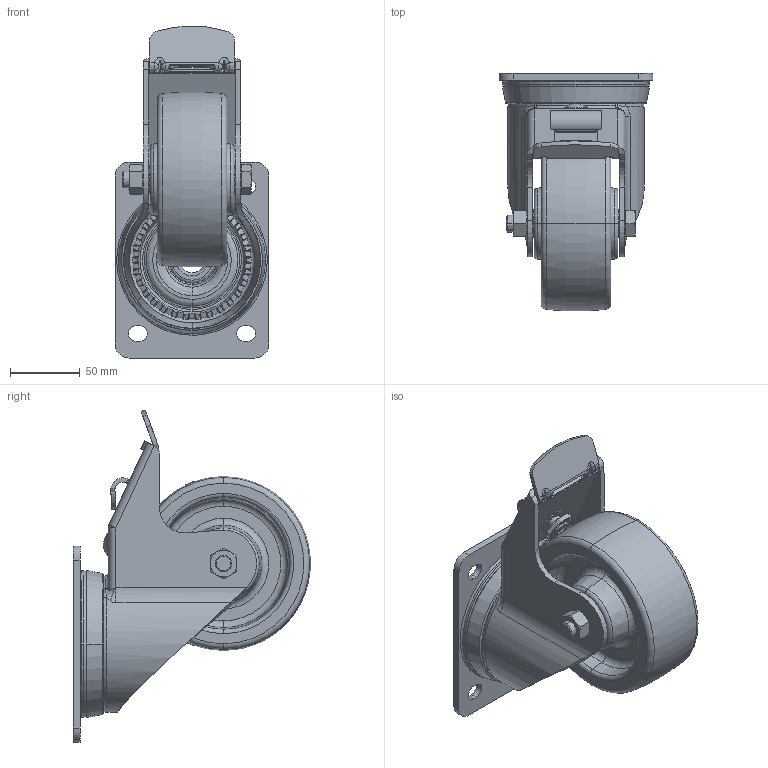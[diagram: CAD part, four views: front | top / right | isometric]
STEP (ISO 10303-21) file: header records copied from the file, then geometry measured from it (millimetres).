
FILE_DESCRIPTION (( 'STEP AP214' ), '1' );
FILE_NAME ('LKX-SPO_127G-FI_602458-214.step', '2013-03-02T14:05:56', ( '' ), ( '' ), 'SwSTEP 2.0', 'SolidWorks 2012', '' );
FILE_SCHEMA (( 'AUTOMOTIVE_DESIGN' ));
Length unit declared in the file: millimetre
Products named in the file (5): SPO_G15_SPO_127_20G_534412; SPO-G_G15_SPO_127_20G_534412; GH-LKX_127-FI_G15; AM_LKX_12x70x4_D20; LKX-SPO_127G-FI_602458-214
Assembly tree (4 placements, depth 3):
  LKX-SPO_127G-FI_602458-214
    AM_LKX_12x70x4_D20
    GH-LKX_127-FI_G15
    SPO_G15_SPO_127_20G_534412
      SPO-G_G15_SPO_127_20G_534412
Bounding box: 110 x 169.87 x 237.16 mm (x, y, z)
Volume: 830456.8 mm3; surface area: 178599.5 mm2
Topology: 3 solids, 4 shells, 1655 faces, 4473 edges, 2917 vertices
Faces by surface type: plane 722, bspline 659, cone 148, cylinder 104, torus 22
Entity records: 94829 total; most frequent: CARTESIAN_POINT 39783, ORIENTED_EDGE 8932, DIRECTION 5364, EDGE_CURVE 4466, VERTEX_POINT 2917, LINE 2278, VECTOR 2278, EDGE_LOOP 1775
